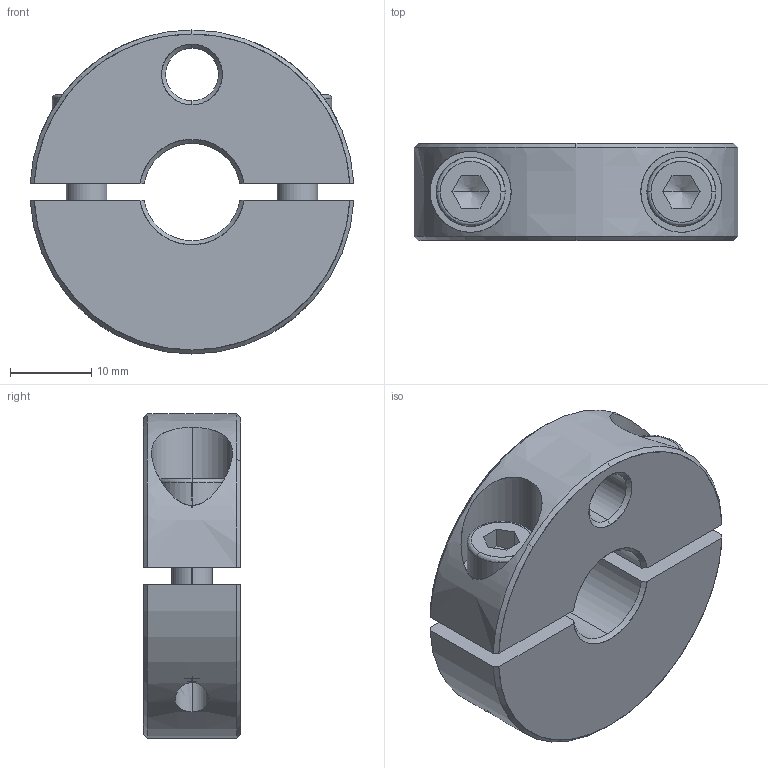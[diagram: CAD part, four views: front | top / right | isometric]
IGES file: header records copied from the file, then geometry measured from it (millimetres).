
Start section: SolidWorks IGES FILE using analytic representation for surfaces
Global section: file name: C:\WIX2\Positioning\3865\3865W112.igs; native system: SolidWorks 2003 by SolidWorks Corporation; preprocessor: Version 5.3; author: Joan; date: 030722.172946; units: millimetre
Bounding box: 39.95 x 12 x 40 mm (x, y, z)
Surface area: 6804.9 mm2 (no closed solid volume)
Topology: 0 solids, 0 shells, 100 faces, 1635 edges, 1631 vertices
Faces by surface type: revolution 66, bspline 34
